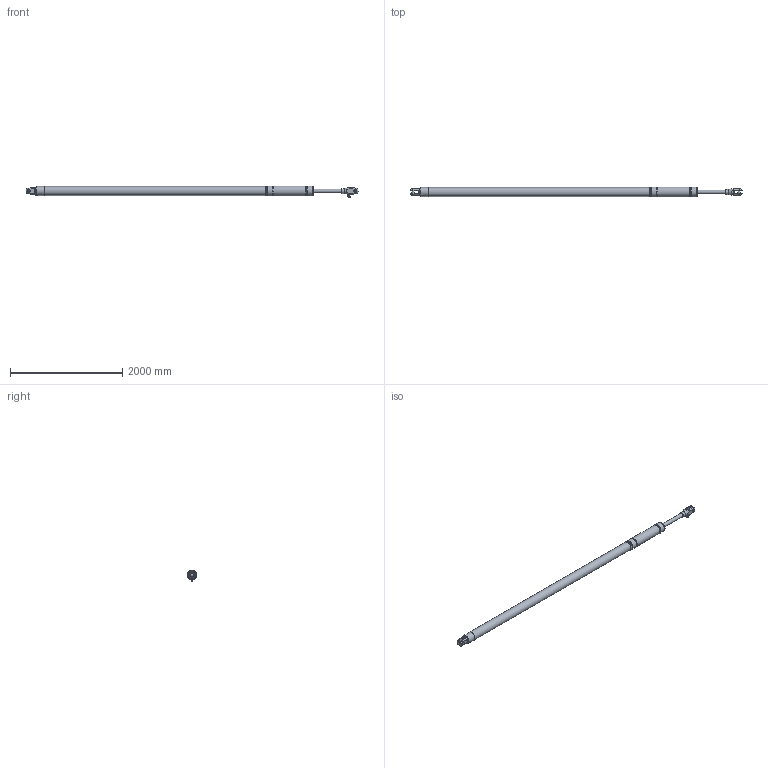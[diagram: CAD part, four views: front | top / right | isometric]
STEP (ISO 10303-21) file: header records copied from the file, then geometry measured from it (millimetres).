
FILE_DESCRIPTION(/* description */ (''),/* implementation_level */ '2;1');
FILE_NAME(/* name */ 'Q:\AA BRAND HYDRAULICS\HYDRAULICS FAMILY DIRECTORY\HYDRAULICS\CYLINDERS\VANGS\ALUMINIUM SINGLE ACTING - STAINLESS ON REQUEST (-0010 To -0150)\VSA-0150-S500-NP-71-L5300\VSA-0150-S500-NP-71-L5300 (Open).stp',/* time_stamp */ '2018-03-28T14:36:45+01:00',/* author */ ('Lorena'),/* organization */ (''),/* preprocessor_version */ 'ST-DEVELOPER v17',/* originating_system */ 'Autodesk Inventor 2018',/* authorisation */ '');
FILE_SCHEMA (('AUTOMOTIVE_DESIGN { 1 0 10303 214 3 1 1 }'));
Length unit declared in the file: millimetre
Products named in the file (1): VSA-0150-S500-NP-71-L5300 (Open)
Bounding box: 5908.08 x 174.4 x 209.9 mm (x, y, z)
Volume: 109290595.1 mm3; surface area: 2920657.7 mm2
Topology: 2 solids, 6 shells, 1707 faces, 4562 edges, 3018 vertices
Faces by surface type: plane 976, bspline 578, cylinder 87, cone 58, torus 4, sphere 4
Full cylindrical faces by diameter (mm): 5 x7, 9.9 x1, 10 x2, 11 x2, 11.1 x1, 12 x2, 13 x2, 15 x1, 18.9 x1, 19 x2, 19.11 x1, 19.9 x1, 20 x1, 20.9 x2, 22 x2, 24 x2, 26 x1, 27 x1, 27.8 x3, 32 x1, 38.1 x2, 47.625 x2, 65 x1, 67 x1, 89 x1, 143.5 x1, 145 x1, 162 x2, 169.8 x1, 171.4 x1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
Entity records: 62118 total; most frequent: CARTESIAN_POINT 21544, ORIENTED_EDGE 9114, DIRECTION 5940, EDGE_CURVE 4557, VERTEX_POINT 3022, LINE 2920, VECTOR 2920, EDGE_LOOP 1883
